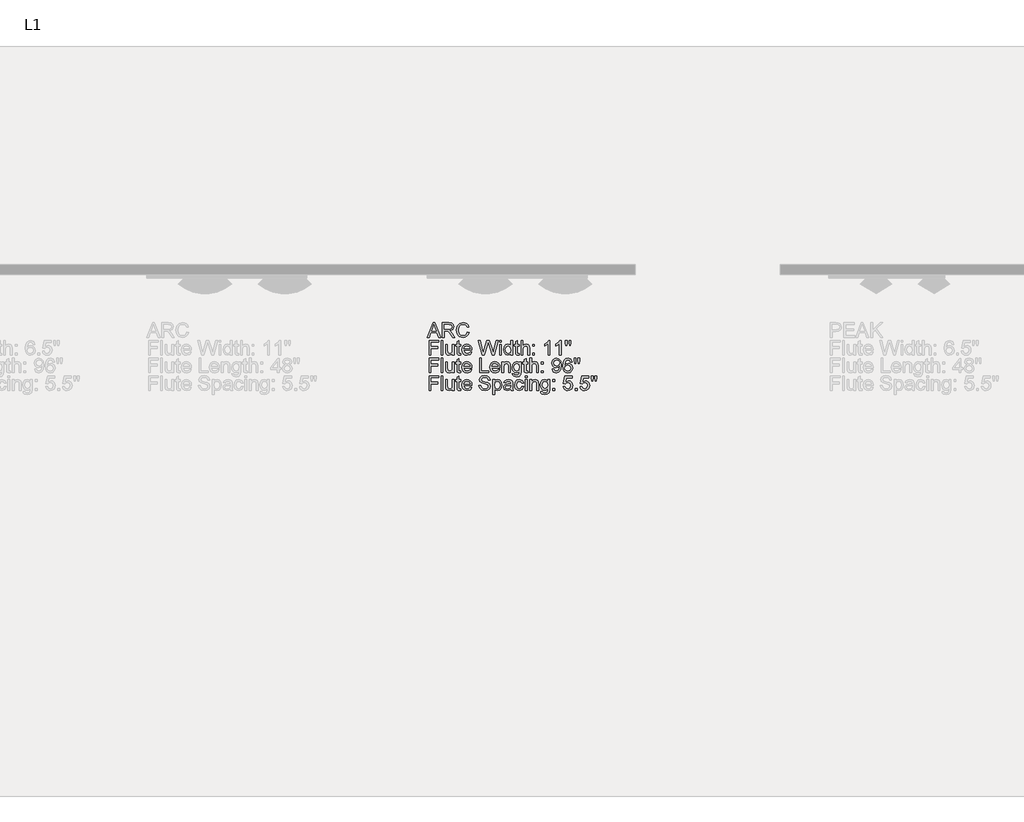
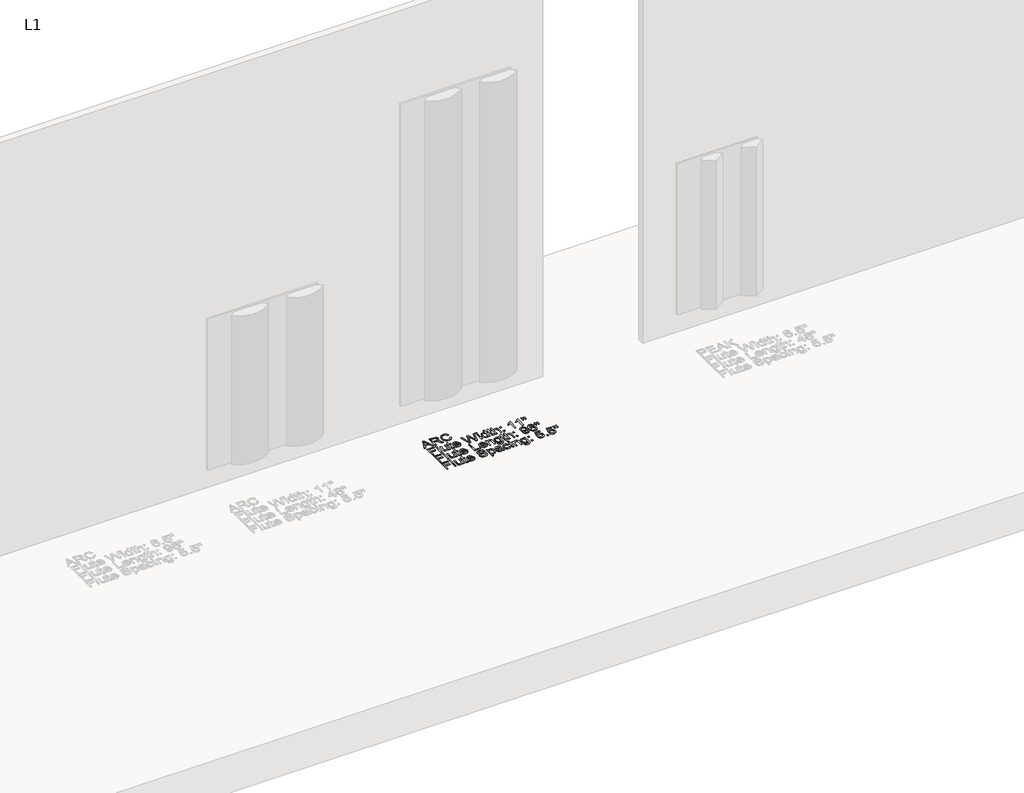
# One storey, part 6 of 17: 1 proxy.
"""IFC4 building model written with IfcOpenShell, lengths in millimetres."""

from ifc_helpers import new_model, si_unit, origin, origin_with_axes, place, context, project, spatial, polyline, outline, extrude, element, save

model = new_model("IFC4")

# Units and contexts
model_context = context("Model", 3, world=origin())
ifc_project = project(units=[si_unit("LENGTHUNIT", "METRE", prefix="MILLI")], contexts=[model_context])

# Site, building, storey
site = spatial("IfcSite", under=ifc_project)
building = spatial("IfcBuilding", under=site)
storey = spatial("IfcBuildingStorey", under=building, Name="L1", Elevation=0.0)

# Proxy
placement = place(None, origin())
element("IfcBuildingElementProxy", 1, Name="3\" Arial", ObjectType="3\" Arial", at=placement, inside=storey, context=model_context, shape_type="SweptSolid", body=[
    extrude(outline(polyline([(5466.8267247, -355.6), (5497.3822674, -279.0522917), (5505.5304121, -279.0522917), (5536.0672665, -355.6), (5525.9568392, -355.6), (5517.2106655, -331.6788411), (5485.6646372, -331.6788411), (5476.9184635, -355.6), (5466.8267247, -355.6)]), holes=[polyline([(5489.1780575, -322.1103776), (5513.7159337, -322.1103776), (5506.8012237, -303.2911534), (5501.4376514, -288.6207552), (5496.672108, -301.6465737), (5489.1780575, -322.1103776)])]), origin_with_axes(), (0.0, 0.0, 1.0), 3.175),
    extrude(outline(polyline([(5546.2898242, -355.6), (5546.2898242, -279.0522917), (5579.2748597, -279.0522917), (5594.5900079, -281.1173605), (5602.9624135, -288.424527), (5606.0927214, -300.0019941), (5600.9066889, -313.7940372), (5584.8813813, -320.9143197), (5590.3197072, -325.0070804), (5598.0753955, -334.8558701), (5610.8395763, -355.6), (5599.7199751, -355.6), (5589.7590551, -339.7335439), (5582.564019, -329.23066), (5577.5088054, -324.2688884), (5572.9581787, -322.4467689), (5567.4077223, -322.1103776), (5555.8582878, -322.1103776), (5555.8582878, -355.6), (5546.2898242, -355.6)]), holes=[polyline([(5555.8582878, -312.5419141), (5577.2752003, -312.5419141), (5588.1985732, -311.1870047), (5594.4031238, -306.8512946), (5596.5242578, -300.3570738), (5592.4782181, -291.928603), (5579.6860046, -288.6207552), (5555.8582878, -288.6207552), (5555.8582878, -312.5419141)])]), origin_with_axes(), (0.0, 0.0, 1.0), 3.175),
    extrude(outline(polyline([(5676.66014, -328.3896818), (5686.2286035, -330.8565513), (5681.8134678, -342.0065212), (5674.8847415, -350.1523298), (5665.7834881, -355.1351259), (5654.8507709, -356.7960579), (5634.938275, -351.7688769), (5623.2580217, -337.2106091), (5619.2493587, -316.7468053), (5623.781297, -295.9466101), (5636.6669525, -282.4629256), (5655.0563434, -277.8562337), (5665.5475469, -279.3466341), (5674.2213031, -283.817835), (5680.8066299, -290.9941827), (5685.0325456, -300.600023), (5675.464082, -302.8800085), (5667.6149518, -291.1156573), (5654.6825753, -287.4246973), (5639.7131626, -291.517458), (5631.2566592, -302.5062404), (5628.8178223, -316.7281169), (5631.7051809, -333.2112904), (5640.6943039, -343.7422068), (5653.8976623, -347.2275944), (5668.5400278, -342.4807394), (5676.66014, -328.3896818)])), origin_with_axes(), (0.0, 0.0, 1.0), 3.175),
    extrude(outline(polyline([(5475.7224056, -448.5448112), (5475.7224056, -371.9971029), (5527.1528971, -371.9971029), (5527.1528971, -381.5655664), (5485.2908691, -381.5655664), (5485.2908691, -404.2906673), (5521.1726074, -404.2906673), (5521.1726074, -413.8591309), (5485.2908691, -413.8591309), (5485.2908691, -448.5448112), (5475.7224056, -448.5448112)])), origin_with_axes(), (0.0, 0.0, 1.0), 3.175),
    extrude(outline(polyline([(5539.1134766, -448.5448112), (5539.1134766, -371.9971029), (5548.6819401, -371.9971029), (5548.6819401, -448.5448112), (5539.1134766, -448.5448112)])), origin_with_axes(), (0.0, 0.0, 1.0), 3.175),
    extrude(outline(polyline([(5598.9163737, -448.5448112), (5598.9163737, -438.8829056), (5591.4223232, -447.0263783), (5581.6482872, -449.7408691), (5572.64982, -447.8346518), (5566.4452694, -443.05042), (5563.5952876, -436.0048912), (5563.0346354, -427.1092103), (5563.0346354, -392.3300879), (5572.603099, -392.3300879), (5572.603099, -422.6053046), (5573.1824395, -432.3606522), (5576.9668416, -438.0886484), (5584.0964683, -440.1724056), (5592.0857615, -438.0419274), (5597.3652361, -432.2391775), (5598.9163737, -421.5774423), (5598.9163737, -392.3300879), (5608.4848372, -392.3300879), (5608.4848372, -448.5448112), (5598.9163737, -448.5448112)])), origin_with_axes(), (0.0, 0.0, 1.0), 3.175),
    extrude(outline(polyline([(5641.9744596, -440.5648621), (5643.1705176, -448.8251373), (5636.0128583, -449.7408691), (5627.9955324, -448.1523547), (5623.9962137, -443.9848403), (5622.8375326, -433.1268768), (5622.8375326, -401.8985514), (5615.6611849, -401.8985514), (5615.6611849, -392.3300879), (5622.8375326, -392.3300879), (5622.8375326, -378.6688636), (5632.4059961, -373.0436536), (5632.4059961, -392.3300879), (5641.9744596, -392.3300879), (5641.9744596, -401.8985514), (5632.4059961, -401.8985514), (5632.4059961, -432.8465507), (5632.910583, -437.7802897), (5634.5458185, -439.5276556), (5637.8069452, -440.1724056), (5641.9744596, -440.5648621)])), origin_with_axes(), (0.0, 0.0, 1.0), 3.175),
    extrude(outline(polyline([(5690.9007049, -431.8), (5700.2822843, -432.9960579), (5691.508078, -445.3490939), (5675.1650675, -449.7408691), (5663.938008, -447.846332), (5655.2992927, -442.1627208), (5649.7908852, -433.0591313), (5647.9547494, -420.9046597), (5649.8095736, -408.3413792), (5655.3740463, -398.9457834), (5663.8959591, -393.0869683), (5674.6231038, -391.1340299), (5685.0161932, -393.0822962), (5693.3208533, -398.927095), (5698.7661875, -408.3040024), (5700.5812988, -420.8485945), (5700.5252336, -423.4275944), (5657.5232129, -423.4275944), (5663.0269483, -435.855384), (5675.3519516, -440.1724056), (5684.7335311, -438.1727462), (5690.9007049, -431.8)]), holes=[polyline([(5657.5232129, -413.8591309), (5691.0128353, -413.8591309), (5687.1817122, -405.1877108), (5674.585727, -400.7024935), (5662.8026874, -404.2813231), (5657.5232129, -413.8591309)])]), origin_with_axes(), (0.0, 0.0, 1.0), 3.175),
    extrude(outline(polyline([(5754.94587, -448.5448112), (5734.0709212, -371.9971029), (5743.9383993, -371.9971029), (5756.0484859, -422.3062901), (5759.786167, -437.8363549), (5763.7854857, -424.100377), (5778.9604709, -371.9971029), (5793.1823474, -371.9971029), (5804.2085065, -409.7663701), (5812.4127165, -437.8363549), (5816.0382671, -422.7548118), (5828.2417958, -371.9971029), (5838.1279622, -371.9971029), (5817.2717019, -448.5448112), (5807.0304557, -448.5448112), (5788.6597533, -389.4894503), (5786.0994417, -381.2478635), (5783.2214273, -391.1714068), (5766.4953045, -448.5448112), (5754.94587, -448.5448112)])), origin_with_axes(), (0.0, 0.0, 1.0), 3.175),
    extrude(outline(polyline([(5846.5003678, -448.5448112), (5846.5003678, -392.3300879), (5856.0688314, -392.3300879), (5856.0688314, -448.5448112), (5846.5003678, -448.5448112)])), origin_with_axes(), (0.0, 0.0, 1.0), 3.175),
    extrude(outline(polyline([(5846.5003678, -381.5655664), (5846.5003678, -371.9971029), (5856.0688314, -371.9971029), (5856.0688314, -381.5655664), (5846.5003678, -381.5655664)])), origin_with_axes(), (0.0, 0.0, 1.0), 3.175),
    extrude(outline(polyline([(5905.107207, -448.5448112), (5905.107207, -439.5183114), (5898.7765097, -447.1852297), (5890.0256639, -449.7408691), (5878.1772149, -446.0405649), (5869.8048093, -435.7152209), (5866.8333529, -420.4935148), (5869.5712043, -405.2624644), (5877.7754142, -394.778269), (5889.9882871, -391.1340299), (5898.8092144, -393.7410625), (5905.107207, -400.5156094), (5905.107207, -371.9971029), (5914.6756706, -371.9971029), (5914.6756706, -448.5448112), (5905.107207, -448.5448112)]), holes=[polyline([(5876.4018164, -420.4561379), (5880.718838, -435.2666992), (5890.904019, -440.1724056), (5900.9677252, -435.4909601), (5905.107207, -421.1849858), (5900.8929716, -405.6549209), (5890.5115625, -400.7024935), (5880.438512, -405.4586927), (5876.4018164, -420.4561379)])]), origin_with_axes(), (0.0, 0.0, 1.0), 3.175),
    extrude(outline(polyline([(5949.3613509, -440.5648621), (5950.5574089, -448.8251373), (5943.3997496, -449.7408691), (5935.3824237, -448.1523547), (5931.383105, -443.9848403), (5930.2244238, -433.1268768), (5930.2244238, -401.8985514), (5923.0480762, -401.8985514), (5923.0480762, -392.3300879), (5930.2244238, -392.3300879), (5930.2244238, -378.6688636), (5939.7928874, -373.0436536), (5939.7928874, -392.3300879), (5949.3613509, -392.3300879), (5949.3613509, -401.8985514), (5939.7928874, -401.8985514), (5939.7928874, -432.8465507), (5940.2974743, -437.7802897), (5941.9327098, -439.5276556), (5945.1938365, -440.1724056), (5949.3613509, -440.5648621)])), origin_with_axes(), (0.0, 0.0, 1.0), 3.175),
    extrude(outline(polyline([(5958.9298145, -448.5448112), (5958.9298145, -371.9971029), (5968.498278, -371.9971029), (5968.498278, -400.1418413), (5975.9596238, -393.3859828), (5985.1496472, -391.1340299), (5995.8954802, -393.5915553), (6002.4177337, -400.3847906), (6004.3800163, -412.9620874), (6004.3800163, -448.5448112), (5994.8115527, -448.5448112), (5994.8115527, -413.9525729), (5991.7653427, -403.860834), (5983.1312994, -400.7024935), (5975.2915133, -402.8329717), (5970.0587598, -408.607689), (5968.498278, -418.6807394), (5968.498278, -448.5448112), (5958.9298145, -448.5448112)])), origin_with_axes(), (0.0, 0.0, 1.0), 3.175),
    extrude(outline(polyline([(6019.9287695, -401.8985514), (6019.9287695, -392.3300879), (6029.4972331, -392.3300879), (6029.4972331, -401.8985514), (6019.9287695, -401.8985514)])), origin_with_axes(), (0.0, 0.0, 1.0), 3.175),
    extrude(outline(polyline([(6019.9287695, -448.5448112), (6019.9287695, -438.9763477), (6029.4972331, -438.9763477), (6029.4972331, -448.5448112), (6019.9287695, -448.5448112)])), origin_with_axes(), (0.0, 0.0, 1.0), 3.175),
    extrude(outline(polyline([(6110.8291732, -448.5448112), (6101.2607096, -448.5448112), (6101.2607096, -388.8914213), (6092.196833, -395.3482654), (6082.1237826, -400.1792181), (6082.1237826, -391.1340299), (6096.1494308, -382.1822838), (6104.6619994, -371.9971029), (6110.8291732, -371.9971029), (6110.8291732, -448.5448112)])), origin_with_axes(), (0.0, 0.0, 1.0), 3.175),
    extrude(outline(polyline([(6169.4360124, -448.5448112), (6159.8675488, -448.5448112), (6159.8675488, -388.8914213), (6150.8036722, -395.3482654), (6140.7306218, -400.1792181), (6140.7306218, -391.1340299), (6154.75627, -382.1822838), (6163.2688386, -371.9971029), (6169.4360124, -371.9971029), (6169.4360124, -448.5448112)])), origin_with_axes(), (0.0, 0.0, 1.0), 3.175),
    extrude(outline(polyline([(6194.497164, -399.5064355), (6192.1611133, -384.7239069), (6192.1611133, -371.9971029), (6201.7295768, -371.9971029), (6201.7295768, -384.7239069), (6199.6364754, -399.5064355), (6194.497164, -399.5064355)])), origin_with_axes(), (0.0, 0.0, 1.0), 3.175),
    extrude(outline(polyline([(6213.5780258, -399.5064355), (6211.2980404, -384.7239069), (6211.2980404, -371.9971029), (6220.8665039, -371.9971029), (6220.8665039, -384.7239069), (6218.6238953, -399.5064355), (6213.5780258, -399.5064355)])), origin_with_axes(), (0.0, 0.0, 1.0), 3.175),
    extrude(outline(polyline([(5475.7224056, -541.4896224), (5475.7224056, -464.9419141), (5527.1528971, -464.9419141), (5527.1528971, -474.5103776), (5485.2908691, -474.5103776), (5485.2908691, -497.2354785), (5521.1726074, -497.2354785), (5521.1726074, -506.8039421), (5485.2908691, -506.8039421), (5485.2908691, -541.4896224), (5475.7224056, -541.4896224)])), origin_with_axes(), (0.0, 0.0, 1.0), 3.175),
    extrude(outline(polyline([(5539.1134766, -541.4896224), (5539.1134766, -464.9419141), (5548.6819401, -464.9419141), (5548.6819401, -541.4896224), (5539.1134766, -541.4896224)])), origin_with_axes(), (0.0, 0.0, 1.0), 3.175),
    extrude(outline(polyline([(5598.9163737, -541.4896224), (5598.9163737, -531.8277168), (5591.4223232, -539.9711895), (5581.6482872, -542.6856803), (5572.64982, -540.779463), (5566.4452694, -535.9952312), (5563.5952876, -528.9497024), (5563.0346354, -520.0540215), (5563.0346354, -485.2748991), (5572.603099, -485.2748991), (5572.603099, -515.5501158), (5573.1824395, -525.3054634), (5576.9668416, -531.0334596), (5584.0964683, -533.1172168), (5592.0857615, -530.9867386), (5597.3652361, -525.1839887), (5598.9163737, -514.5222535), (5598.9163737, -485.2748991), (5608.4848372, -485.2748991), (5608.4848372, -541.4896224), (5598.9163737, -541.4896224)])), origin_with_axes(), (0.0, 0.0, 1.0), 3.175),
    extrude(outline(polyline([(5641.9744596, -533.5096733), (5643.1705176, -541.7699485), (5636.0128583, -542.6856803), (5627.9955324, -541.0971659), (5623.9962137, -536.9296515), (5622.8375326, -526.071688), (5622.8375326, -494.8433626), (5615.6611849, -494.8433626), (5615.6611849, -485.2748991), (5622.8375326, -485.2748991), (5622.8375326, -471.6136748), (5632.4059961, -465.9884648), (5632.4059961, -485.2748991), (5641.9744596, -485.2748991), (5641.9744596, -494.8433626), (5632.4059961, -494.8433626), (5632.4059961, -525.7913619), (5632.910583, -530.7251009), (5634.5458185, -532.4724668), (5637.8069452, -533.1172168), (5641.9744596, -533.5096733)])), origin_with_axes(), (0.0, 0.0, 1.0), 3.175),
    extrude(outline(polyline([(5690.9007049, -524.7448112), (5700.2822843, -525.9408691), (5691.508078, -538.2939051), (5675.1650675, -542.6856803), (5663.938008, -540.7911432), (5655.2992927, -535.107532), (5649.7908852, -526.0039425), (5647.9547494, -513.8494709), (5649.8095736, -501.2861904), (5655.3740463, -491.8905946), (5663.8959591, -486.0317795), (5674.6231038, -484.0788411), (5685.0161932, -486.0271074), (5693.3208533, -491.8719062), (5698.7661875, -501.2488136), (5700.5812988, -513.7934057), (5700.5252336, -516.3724056), (5657.5232129, -516.3724056), (5663.0269483, -528.8001952), (5675.3519516, -533.1172168), (5684.7335311, -531.1175574), (5690.9007049, -524.7448112)]), holes=[polyline([(5657.5232129, -506.8039421), (5691.0128353, -506.8039421), (5687.1817122, -498.132522), (5674.585727, -493.6473047), (5662.8026874, -497.2261343), (5657.5232129, -506.8039421)])]), origin_with_axes(), (0.0, 0.0, 1.0), 3.175),
    extrude(outline(polyline([(5741.2472689, -541.4896224), (5741.2472689, -464.9419141), (5750.8157324, -464.9419141), (5750.8157324, -531.9211589), (5789.0895866, -531.9211589), (5789.0895866, -541.4896224), (5741.2472689, -541.4896224)])), origin_with_axes(), (0.0, 0.0, 1.0), 3.175),
    extrude(outline(polyline([(5838.0158318, -524.7448112), (5847.3974113, -525.9408691), (5838.623205, -538.2939051), (5822.2801945, -542.6856803), (5811.053135, -540.7911432), (5802.4144196, -535.107532), (5796.9060121, -526.0039425), (5795.0698763, -513.8494709), (5796.9247005, -501.2861904), (5802.4891732, -491.8905946), (5811.0110861, -486.0317795), (5821.7382307, -484.0788411), (5832.1313202, -486.0271074), (5840.4359803, -491.8719062), (5845.8813144, -501.2488136), (5847.6964258, -513.7934057), (5847.6403606, -516.3724056), (5804.6383398, -516.3724056), (5810.1420752, -528.8001952), (5822.4670786, -533.1172168), (5831.848658, -531.1175574), (5838.0158318, -524.7448112)]), holes=[polyline([(5804.6383398, -506.8039421), (5838.1279622, -506.8039421), (5834.2968391, -498.132522), (5821.7008539, -493.6473047), (5809.9178144, -497.2261343), (5804.6383398, -506.8039421)])]), origin_with_axes(), (0.0, 0.0, 1.0), 3.175),
    extrude(outline(polyline([(5857.2648893, -541.4896224), (5857.2648893, -485.2748991), (5866.8333529, -485.2748991), (5866.8333529, -493.1240293), (5874.1498636, -486.3401382), (5884.1388162, -484.0788411), (5893.1746602, -485.9009607), (5899.341834, -490.6851924), (5902.2105042, -497.7213771), (5902.7150911, -506.9721377), (5902.7150911, -541.4896224), (5893.1466276, -541.4896224), (5893.1466276, -508.2616377), (5892.0440117, -499.79579), (5888.1474792, -495.319917), (5881.5785047, -493.6473047), (5871.1970955, -497.4036742), (5866.8333529, -511.6629274), (5866.8333529, -541.4896224), (5857.2648893, -541.4896224)])), origin_with_axes(), (0.0, 0.0, 1.0), 3.175),
    extrude(outline(polyline([(5913.4796126, -546.2738542), (5923.0480762, -547.4699121), (5926.1503515, -552.5157816), (5935.4384889, -554.6462598), (5945.2312133, -552.2354555), (5949.9033147, -545.4702527), (5950.5574089, -534.3132747), (5943.8202387, -539.6955355), (5935.6066846, -541.4896224), (5925.7415426, -539.4011931), (5918.385319, -533.1359052), (5913.8089958, -523.950554), (5912.2835547, -513.1019347), (5915.0214061, -498.272685), (5922.9452899, -487.7791454), (5935.1394744, -484.0788411), (5943.6754036, -486.1719425), (5950.5574089, -492.4512467), (5950.5574089, -485.2748991), (5960.1258724, -485.2748991), (5960.1258724, -533.8086878), (5957.5094957, -552.3943069), (5949.2211879, -561.0376944), (5935.2516049, -564.2147233), (5919.3384277, -559.7388502), (5914.8415302, -554.1346647), (5913.4796126, -546.2738542)]), holes=[polyline([(5921.8520182, -512.4478405), (5925.9354348, -527.2584017), (5936.1860251, -531.9211589), (5946.4179271, -527.2864343), (5950.5574089, -512.7281666), (5946.2964524, -498.4595691), (5936.0365179, -493.6473047), (5925.9915, -498.3848154), (5921.8520182, -512.4478405)])]), origin_with_axes(), (0.0, 0.0, 1.0), 3.175),
    extrude(outline(polyline([(5994.8115527, -533.5096733), (5996.0076107, -541.7699485), (5988.8499514, -542.6856803), (5980.8326255, -541.0971659), (5976.8333068, -536.9296515), (5975.6746257, -526.071688), (5975.6746257, -494.8433626), (5968.498278, -494.8433626), (5968.498278, -485.2748991), (5975.6746257, -485.2748991), (5975.6746257, -471.6136748), (5985.2430892, -465.9884648), (5985.2430892, -485.2748991), (5994.8115527, -485.2748991), (5994.8115527, -494.8433626), (5985.2430892, -494.8433626), (5985.2430892, -525.7913619), (5985.7476761, -530.7251009), (5987.3829116, -532.4724668), (5990.6440383, -533.1172168), (5994.8115527, -533.5096733)])), origin_with_axes(), (0.0, 0.0, 1.0), 3.175),
    extrude(outline(polyline([(6004.3800163, -541.4896224), (6004.3800163, -464.9419141), (6013.9484798, -464.9419141), (6013.9484798, -493.0866525), (6021.4098257, -486.330794), (6030.599849, -484.0788411), (6041.3456821, -486.5363664), (6047.8679355, -493.3296018), (6049.8302181, -505.9068986), (6049.8302181, -541.4896224), (6040.2617546, -541.4896224), (6040.2617546, -506.8973841), (6037.2155445, -496.8056452), (6028.5815012, -493.6473047), (6020.7417152, -495.7777829), (6015.5089617, -501.5525002), (6013.9484798, -511.6255506), (6013.9484798, -541.4896224), (6004.3800163, -541.4896224)])), origin_with_axes(), (0.0, 0.0, 1.0), 3.175),
    extrude(outline(polyline([(6065.3789714, -494.8433626), (6065.3789714, -485.2748991), (6074.9474349, -485.2748991), (6074.9474349, -494.8433626), (6065.3789714, -494.8433626)])), origin_with_axes(), (0.0, 0.0, 1.0), 3.175),
    extrude(outline(polyline([(6065.3789714, -541.4896224), (6065.3789714, -531.9211589), (6074.9474349, -531.9211589), (6074.9474349, -541.4896224), (6065.3789714, -541.4896224)])), origin_with_axes(), (0.0, 0.0, 1.0), 3.175),
    extrude(outline(polyline([(6121.5936947, -522.3526953), (6131.1621582, -521.1566374), (6135.4604914, -530.2859234), (6143.6086362, -533.1172168), (6151.3549802, -531.2950973), (6156.6064221, -526.4267677), (6159.73673, -518.1104273), (6161.119672, -507.0095145), (6161.0636068, -505.140674), (6153.4107048, -512.3917753), (6142.9171652, -515.1763477), (6134.1920159, -513.4757028), (6126.9292344, -508.3737681), (6122.0305361, -500.4919331), (6120.3976367, -490.4515874), (6122.1099619, -480.0795224), (6127.2469373, -471.9500661), (6134.9629126, -466.6939521), (6144.4122376, -464.9419141), (6158.0454293, -468.9412328), (6167.4270088, -480.3411601), (6170.6320703, -501.7580726), (6167.436353, -524.9971047), (6157.9332989, -538.1630862), (6143.1601144, -542.6856803), (6128.4523394, -537.3501406), (6121.5936947, -522.3526953)]), holes=[polyline([(6161.0636068, -490.2273265), (6156.9334692, -478.7526456), (6145.9633753, -474.5103776), (6134.4513176, -479.0796927), (6129.9661003, -490.9187975), (6134.2083683, -501.5244675), (6145.7017376, -505.6078841), (6156.7372409, -501.5244675), (6161.0636068, -490.2273265)])]), origin_with_axes(), (0.0, 0.0, 1.0), 3.175),
    extrude(outline(polyline([(6228.0428516, -485.2748991), (6218.474388, -486.470957), (6214.8488374, -478.4910079), (6205.2616854, -474.5103776), (6196.6276422, -476.8277399), (6190.0960445, -485.5271926), (6187.3768815, -502.5803624), (6195.8146965, -494.9461489), (6206.2708593, -492.4512467), (6215.1104751, -494.1565637), (6222.529772, -499.2725147), (6227.5616251, -507.0889402), (6229.2389095, -516.8956809), (6226.080569, -530.0990393), (6217.3904605, -539.443242), (6204.8505405, -542.6856803), (6193.9949131, -540.5365137), (6185.3491895, -534.0890139), (6179.6936109, -522.707775), (6177.808418, -505.7573914), (6179.9015194, -486.69989), (6186.1808236, -473.6693994), (6194.7541295, -467.1237854), (6205.8597144, -464.9419141), (6220.9786343, -470.3428632), (6228.0428516, -485.2748991)]), holes=[polyline([(6187.3768815, -516.7461737), (6189.5914576, -525.0344815), (6195.4783052, -531.052148), (6204.1030043, -533.1172168), (6215.3814569, -528.837572), (6219.670446, -517.2133838), (6215.4375222, -506.0844385), (6203.7105478, -502.0197103), (6192.1330807, -506.0844385), (6187.3768815, -516.7461737)])]), origin_with_axes(), (0.0, 0.0, 1.0), 3.175),
    extrude(outline(polyline([(6239.9473658, -492.4512467), (6237.6113151, -477.6687181), (6237.6113151, -464.9419141), (6247.1797787, -464.9419141), (6247.1797787, -477.6687181), (6245.0866773, -492.4512467), (6239.9473658, -492.4512467)])), origin_with_axes(), (0.0, 0.0, 1.0), 3.175),
    extrude(outline(polyline([(6259.0282276, -492.4512467), (6256.7482422, -477.6687181), (6256.7482422, -464.9419141), (6266.3167057, -464.9419141), (6266.3167057, -477.6687181), (6264.0740971, -492.4512467), (6259.0282276, -492.4512467)])), origin_with_axes(), (0.0, 0.0, 1.0), 3.175),
    extrude(outline(polyline([(5475.7224056, -634.4344336), (5475.7224056, -557.8867253), (5527.1528971, -557.8867253), (5527.1528971, -567.4551888), (5485.2908691, -567.4551888), (5485.2908691, -590.1802897), (5521.1726074, -590.1802897), (5521.1726074, -599.7487533), (5485.2908691, -599.7487533), (5485.2908691, -634.4344336), (5475.7224056, -634.4344336)])), origin_with_axes(), (0.0, 0.0, 1.0), 3.175),
    extrude(outline(polyline([(5539.1134766, -634.4344336), (5539.1134766, -557.8867253), (5548.6819401, -557.8867253), (5548.6819401, -634.4344336), (5539.1134766, -634.4344336)])), origin_with_axes(), (0.0, 0.0, 1.0), 3.175),
    extrude(outline(polyline([(5598.9163737, -634.4344336), (5598.9163737, -624.772528), (5591.4223232, -632.9160007), (5581.6482872, -635.6304915), (5572.64982, -633.7242742), (5566.4452694, -628.9400424), (5563.5952876, -621.8945136), (5563.0346354, -612.9988327), (5563.0346354, -578.2197103), (5572.603099, -578.2197103), (5572.603099, -608.494927), (5573.1824395, -618.2502746), (5576.9668416, -623.9782708), (5584.0964683, -626.062028), (5592.0857615, -623.9315498), (5597.3652361, -618.1287999), (5598.9163737, -607.4670647), (5598.9163737, -578.2197103), (5608.4848372, -578.2197103), (5608.4848372, -634.4344336), (5598.9163737, -634.4344336)])), origin_with_axes(), (0.0, 0.0, 1.0), 3.175),
    extrude(outline(polyline([(5641.9744596, -626.4544845), (5643.1705176, -634.7147597), (5636.0128583, -635.6304915), (5627.9955324, -634.0419771), (5623.9962137, -629.8744627), (5622.8375326, -619.0164992), (5622.8375326, -587.7881738), (5615.6611849, -587.7881738), (5615.6611849, -578.2197103), (5622.8375326, -578.2197103), (5622.8375326, -564.558486), (5632.4059961, -558.933276), (5632.4059961, -578.2197103), (5641.9744596, -578.2197103), (5641.9744596, -587.7881738), (5632.4059961, -587.7881738), (5632.4059961, -618.7361731), (5632.910583, -623.6699121), (5634.5458185, -625.417278), (5637.8069452, -626.062028), (5641.9744596, -626.4544845)])), origin_with_axes(), (0.0, 0.0, 1.0), 3.175),
    extrude(outline(polyline([(5690.9007049, -617.6896224), (5700.2822843, -618.8856803), (5691.508078, -631.2387163), (5675.1650675, -635.6304915), (5663.938008, -633.7359544), (5655.2992927, -628.0523432), (5649.7908852, -618.9487537), (5647.9547494, -606.7942821), (5649.8095736, -594.2310016), (5655.3740463, -584.8354058), (5663.8959591, -578.9765907), (5674.6231038, -577.0236523), (5685.0161932, -578.9719186), (5693.3208533, -584.8167174), (5698.7661875, -594.1936248), (5700.5812988, -606.7382169), (5700.5252336, -609.3172168), (5657.5232129, -609.3172168), (5663.0269483, -621.7450064), (5675.3519516, -626.062028), (5684.7335311, -624.0623686), (5690.9007049, -617.6896224)]), holes=[polyline([(5657.5232129, -599.7487533), (5691.0128353, -599.7487533), (5687.1817122, -591.0773332), (5674.585727, -586.5921159), (5662.8026874, -590.1709455), (5657.5232129, -599.7487533)])]), origin_with_axes(), (0.0, 0.0, 1.0), 3.175),
    extrude(outline(polyline([(5737.6590951, -608.1211589), (5747.2275586, -608.1211589), (5750.3111455, -617.6989666), (5757.8425728, -623.7540099), (5769.3172537, -626.062028), (5779.3155506, -624.3146621), (5785.7723946, -619.5117419), (5787.8935286, -613.0922747), (5786.3050142, -607.1213292), (5779.8014491, -602.7762749), (5765.8692429, -599.1226917), (5750.8717976, -594.4038693), (5742.7329971, -587.2835869), (5740.0512109, -577.7711886), (5743.3684029, -566.9412577), (5753.0583411, -559.2976999), (5767.2428407, -556.6906673), (5782.3804491, -559.4191745), (5792.472188, -567.4365004), (5796.2659342, -579.4157682), (5786.6974707, -579.4157682), (5781.2778332, -569.585667), (5767.6166088, -566.2591309), (5753.9180077, -569.5482902), (5749.6196745, -577.4908625), (5752.6658846, -584.1252464), (5768.2893914, -589.4701303), (5785.2210867, -594.2730505), (5794.4811915, -602.0287387), (5797.4619922, -612.8493254), (5794.0326698, -624.2959737), (5784.1651918, -632.6496909), (5769.6910218, -635.6304915), (5752.6004751, -632.4160858), (5741.7892326, -622.7354918), (5737.6590951, -608.1211589)])), origin_with_axes(), (0.0, 0.0, 1.0), 3.175),
    extrude(outline(polyline([(5810.6186296, -655.9634766), (5810.6186296, -578.2197103), (5820.1870931, -578.2197103), (5820.1870931, -587.6012898), (5826.8027886, -579.6680617), (5835.7358464, -577.0236523), (5847.8646214, -580.7239566), (5855.7885053, -591.1520868), (5858.4609473, -605.8972386), (5855.4427698, -621.3992709), (5846.6779077, -631.9582199), (5834.5771652, -635.6304915), (5826.2514806, -633.1729662), (5820.1870931, -626.9590715), (5820.1870931, -655.9634766), (5810.6186296, -655.9634766)]), holes=[polyline([(5820.1870931, -606.7755937), (5824.3265749, -621.3525498), (5834.3715928, -626.062028), (5844.6221831, -621.1843542), (5848.8924837, -606.0654343), (5844.7249693, -591.4511013), (5834.7640493, -586.5921159), (5824.606901, -591.75946), (5820.1870931, -606.7755937)])]), origin_with_axes(), (0.0, 0.0, 1.0), 3.175),
    extrude(outline(polyline([(5905.107207, -627.2580859), (5895.8284138, -633.7429626), (5885.5778234, -635.6304915), (5871.6829941, -631.089209), (5866.8333529, -619.4837093), (5868.6648166, -611.9149051), (5873.477081, -606.420514), (5880.1768743, -603.2808619), (5888.4558379, -601.8418547), (5905.0511418, -598.5526953), (5905.107207, -596.4222171), (5902.4721419, -589.3579999), (5891.8945044, -586.5921159), (5882.2139105, -588.4329238), (5877.5978744, -594.9645215), (5868.0294108, -593.7684635), (5872.1688926, -584.4242609), (5880.5039214, -578.9485581), (5893.1279392, -577.0236523), (5904.7240947, -578.7242972), (5911.2743808, -582.9945979), (5914.2084604, -589.4888187), (5914.6756706, -597.8612243), (5914.6756706, -609.7657385), (5915.1615691, -626.3890751), (5917.0677865, -634.4344336), (5907.4993229, -634.4344336), (5905.107207, -627.2580859)]), holes=[polyline([(5905.107207, -608.1211589), (5889.6705842, -611.0552385), (5881.4383417, -612.6063761), (5877.7100048, -615.1293109), (5876.4018164, -618.8109267), (5879.2517982, -623.987615), (5887.6148596, -626.062028), (5897.2954536, -623.7726983), (5903.537381, -618.2315862), (5905.0511418, -610.8309776), (5905.107207, -608.1211589)])]), origin_with_axes(), (0.0, 0.0, 1.0), 3.175),
    extrude(outline(polyline([(5963.7140462, -614.1014486), (5973.2825098, -615.2975065), (5965.6015752, -630.2388866), (5950.42659, -635.6304915), (5940.2484173, -633.7499707), (5932.2894926, -628.1084084), (5927.1525172, -618.9534258), (5925.4401921, -606.5326444), (5928.3649275, -590.6381556), (5937.2792969, -580.4249421), (5950.2957712, -577.0236523), (5964.8446948, -581.6957537), (5972.0864518, -594.9645215), (5962.5179883, -596.1605794), (5958.079492, -588.993576), (5950.3705248, -586.5921159), (5939.2789562, -591.3202824), (5935.0086556, -606.2710067), (5939.1855142, -621.361894), (5950.1088871, -626.062028), (5959.1260427, -623.1279484), (5963.7140462, -614.1014486)])), origin_with_axes(), (0.0, 0.0, 1.0), 3.175),
    extrude(outline(polyline([(5981.6549154, -567.4551888), (5981.6549154, -557.8867253), (5991.2233789, -557.8867253), (5991.2233789, -567.4551888), (5981.6549154, -567.4551888)])), origin_with_axes(), (0.0, 0.0, 1.0), 3.175),
    extrude(outline(polyline([(5981.6549154, -634.4344336), (5981.6549154, -578.2197103), (5991.2233789, -578.2197103), (5991.2233789, -634.4344336), (5981.6549154, -634.4344336)])), origin_with_axes(), (0.0, 0.0, 1.0), 3.175),
    extrude(outline(polyline([(6005.5760742, -634.4344336), (6005.5760742, -578.2197103), (6015.1445378, -578.2197103), (6015.1445378, -586.0688405), (6022.4610485, -579.2849494), (6032.4500011, -577.0236523), (6041.4858451, -578.8457719), (6047.6530189, -583.6300036), (6050.5216891, -590.6661883), (6051.026276, -599.9169489), (6051.026276, -634.4344336), (6041.4578125, -634.4344336), (6041.4578125, -601.2064489), (6040.3551966, -592.7406012), (6036.4586641, -588.2647282), (6029.8896896, -586.5921159), (6019.5082804, -590.3484854), (6015.1445378, -604.6077386), (6015.1445378, -634.4344336), (6005.5760742, -634.4344336)])), origin_with_axes(), (0.0, 0.0, 1.0), 3.175),
    extrude(outline(polyline([(6061.7907975, -639.2186654), (6071.3592611, -640.4147233), (6074.4615364, -645.4605928), (6083.7496738, -647.591071), (6093.5423982, -645.1802667), (6098.2144996, -638.4150639), (6098.8685938, -627.2580859), (6092.1314236, -632.6403467), (6083.9178695, -634.4344336), (6074.0527275, -632.3460043), (6066.6965039, -626.0807164), (6062.1201807, -616.8953652), (6060.5947396, -606.0467459), (6063.332591, -591.2174962), (6071.2564748, -580.7239566), (6083.4506593, -577.0236523), (6091.9865885, -579.1167537), (6098.8685938, -585.3960579), (6098.8685938, -578.2197103), (6108.4370573, -578.2197103), (6108.4370573, -626.753499), (6105.8206805, -645.3391181), (6097.5323728, -653.9825056), (6083.5627898, -657.1595345), (6067.6496126, -652.6836614), (6063.1527151, -647.0794759), (6061.7907975, -639.2186654)]), holes=[polyline([(6070.1632031, -605.3926517), (6074.2466197, -620.2032129), (6084.49721, -624.8659701), (6094.729112, -620.2312455), (6098.8685938, -605.6729778), (6094.6076373, -591.4043803), (6084.3477028, -586.5921159), (6074.3026849, -591.3296266), (6070.1632031, -605.3926517)])]), origin_with_axes(), (0.0, 0.0, 1.0), 3.175),
    extrude(outline(polyline([(6125.1818685, -634.4344336), (6125.1818685, -624.8659701), (6134.750332, -624.8659701), (6134.750332, -634.4344336), (6125.1818685, -634.4344336)])), origin_with_axes(), (0.0, 0.0, 1.0), 3.175),
    extrude(outline(polyline([(6125.1818685, -587.7881738), (6125.1818685, -578.2197103), (6134.750332, -578.2197103), (6134.750332, -587.7881738), (6125.1818685, -587.7881738)])), origin_with_axes(), (0.0, 0.0, 1.0), 3.175),
    extrude(outline(polyline([(6180.2005339, -614.1014486), (6189.7689974, -612.9053906), (6194.590606, -622.7635245), (6204.5889028, -626.062028), (6216.5868591, -621.4740245), (6220.8665039, -609.2985284), (6216.857841, -597.9359779), (6204.7384101, -593.7684635), (6196.3379719, -595.4317316), (6190.9650553, -599.7487533), (6181.3965918, -598.5526953), (6189.7689974, -559.0827832), (6226.8467936, -559.0827832), (6226.8467936, -568.6512467), (6197.5059972, -568.6512467), (6193.394548, -589.731768), (6207.3921637, -584.2), (6216.3345656, -585.9146612), (6223.7632067, -591.0586448), (6228.7670273, -598.8984308), (6230.4349675, -608.7004994), (6228.9352229, -618.268963), (6224.4359893, -626.4544845), (6215.8206345, -633.3364898), (6204.551526, -635.6304915), (6195.1535942, -634.1564436), (6187.6665518, -629.7342996), (6182.5342485, -622.8779909), (6180.2005339, -614.1014486)])), origin_with_axes(), (0.0, 0.0, 1.0), 3.175),
    extrude(outline(polyline([(6243.5916048, -634.4344336), (6243.5916048, -624.8659701), (6253.1600684, -624.8659701), (6253.1600684, -634.4344336), (6243.5916048, -634.4344336)])), origin_with_axes(), (0.0, 0.0, 1.0), 3.175),
    extrude(outline(polyline([(6268.7088216, -614.1014486), (6278.2772852, -612.9053906), (6283.0988937, -622.7635245), (6293.0971906, -626.062028), (6305.0951468, -621.4740245), (6309.3747917, -609.2985284), (6305.3661287, -597.9359779), (6293.2466979, -593.7684635), (6284.8462596, -595.4317316), (6279.4733431, -599.7487533), (6269.9048796, -598.5526953), (6278.2772852, -559.0827832), (6315.3550814, -559.0827832), (6315.3550814, -568.6512467), (6286.014285, -568.6512467), (6281.9028358, -589.731768), (6295.9004514, -584.2), (6304.8428534, -585.9146612), (6312.2714945, -591.0586448), (6317.275315, -598.8984308), (6318.9432552, -608.7004994), (6317.4435107, -618.268963), (6312.9442771, -626.4544845), (6304.3289222, -633.3364898), (6293.0598138, -635.6304915), (6283.661882, -634.1564436), (6276.1748396, -629.7342996), (6271.0425362, -622.8779909), (6268.7088216, -614.1014486)])), origin_with_axes(), (0.0, 0.0, 1.0), 3.175),
    extrude(outline(polyline([(6329.6517115, -585.3960579), (6327.3156608, -570.6135293), (6327.3156608, -557.8867253), (6336.8841244, -557.8867253), (6336.8841244, -570.6135293), (6334.791023, -585.3960579), (6329.6517115, -585.3960579)])), origin_with_axes(), (0.0, 0.0, 1.0), 3.175),
    extrude(outline(polyline([(6348.7325734, -585.3960579), (6346.4525879, -570.6135293), (6346.4525879, -557.8867253), (6356.0210514, -557.8867253), (6356.0210514, -570.6135293), (6353.7784428, -585.3960579), (6348.7325734, -585.3960579)])), origin_with_axes(), (0.0, 0.0, 1.0), 3.175),
])

save(model, "model.ifc")
